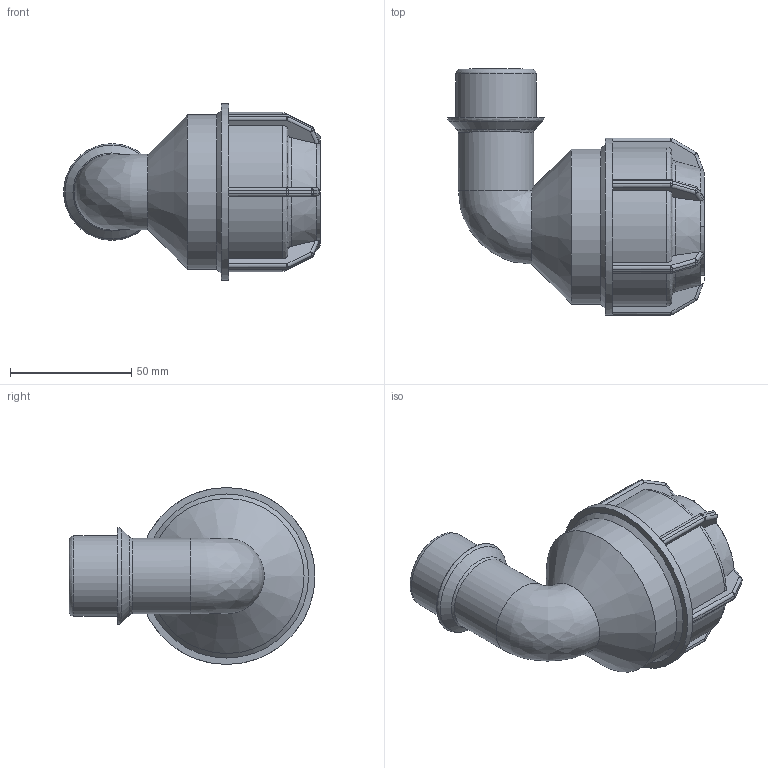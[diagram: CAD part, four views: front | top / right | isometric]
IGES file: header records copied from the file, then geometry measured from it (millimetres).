
Global section: file name: 148500040010.ipt; native system: Autodesk Inventor 2015; preprocessor: unknown; author: KIM; date: 20180409.131249; units: millimetre
Bounding box: 105.95 x 101.5 x 73 mm (x, y, z)
Volume: 138089.2 mm3; surface area: 42656.9 mm2
Topology: 1 solids, 1 shells, 213 faces, 513 edges, 299 vertices
Faces by surface type: plane 98, cylinder 59, sphere 24, revolution 22, cone 9, bspline 1
Full cylindrical faces by diameter (mm): 31.088 x1, 33.249 x1, 39.899 x1, 64 x1, 73 x1
